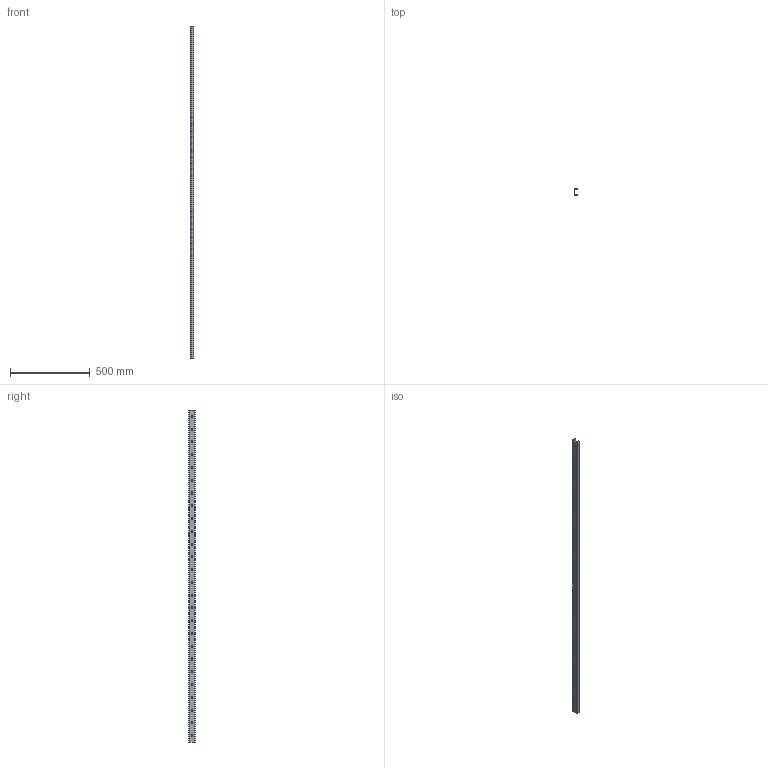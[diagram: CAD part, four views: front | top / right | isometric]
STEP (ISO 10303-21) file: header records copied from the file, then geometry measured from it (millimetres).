
FILE_DESCRIPTION (( 'STEP AP203' ), '1' );
FILE_NAME ('L1971.40U-2080.step', '2026-01-14T16:03:57', ( '' ), ( '' ), 'SwSTEP 2.0', 'SolidWorks 2019', '' );
FILE_SCHEMA (( 'CONFIG_CONTROL_DESIGN' ));
Length unit declared in the file: millimetre
Products named in the file (1): L1971.40U-2080
Bounding box: 21 x 38.5 x 2080 mm (x, y, z)
Volume: 433005.8 mm3; surface area: 304403.7 mm2
Topology: 1 solids, 1 shells, 144 faces, 426 edges, 284 vertices
Faces by surface type: cylinder 82, plane 62
Entity records: 5055 total; most frequent: DIRECTION 880, CARTESIAN_POINT 855, ORIENTED_EDGE 852, EDGE_CURVE 426, AXIS2_PLACEMENT_3D 309, VERTEX_POINT 284, VECTOR 262, LINE 262
